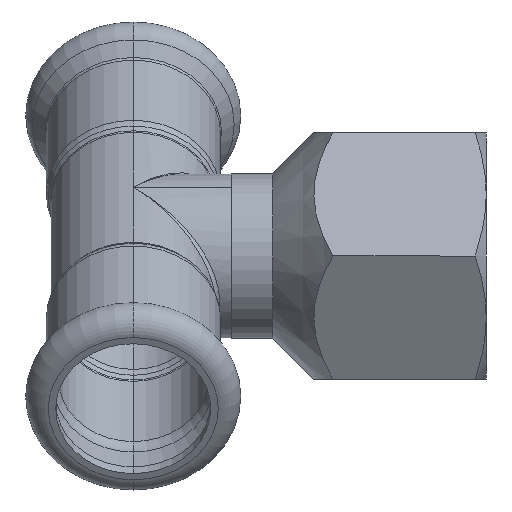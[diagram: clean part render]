
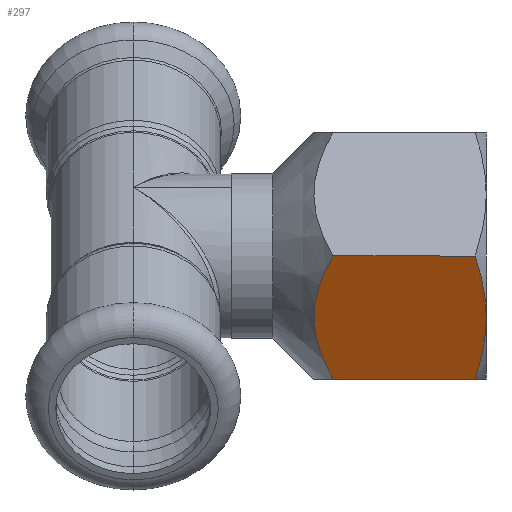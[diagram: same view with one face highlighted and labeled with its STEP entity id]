
A CAD part, left-side view. The second image highlights one B-rep face of the part: STEP entity #297.
In plain terms, the highlighted planar face has unit normal (-0.866, 0, -0.5).
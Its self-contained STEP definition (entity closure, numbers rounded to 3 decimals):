
#33 = VERTEX_POINT ( 'NONE', #2145 ) ;
#54 = ORIENTED_EDGE ( 'NONE', *, *, #2784, .T. ) ;
#62 = CARTESIAN_POINT ( 'NONE',  ( -9.369, 0.931, -13.773 ) ) ;
#104 = CARTESIAN_POINT ( 'NONE',  ( -10.082, 0.594, -12.537 ) ) ;
#197 = FACE_OUTER_BOUND ( 'NONE', #3261, .T. ) ;
#272 = DIRECTION ( 'NONE',  ( 0., -1., 0. ) ) ;
#290 = CARTESIAN_POINT ( 'NONE',  ( -12.213, 20.938, -8.847 ) ) ;
#297 = ADVANCED_FACE ( 'NONE', ( #197 ), #2793, .F. ) ;
#317 = CARTESIAN_POINT ( 'NONE',  ( -8.66, 31., -15. ) ) ;
#321 = CARTESIAN_POINT ( 'NONE',  ( -9.337, 19.356, -13.828 ) ) ;
#328 = CARTESIAN_POINT ( 'NONE',  ( -8.66, 1.34, -15. ) ) ;
#418 = CARTESIAN_POINT ( 'NONE',  ( -14.82, 0.245, -4.331 ) ) ;
#438 = CARTESIAN_POINT ( 'NONE',  ( -12.99, 0., -7.5 ) ) ;
#469 = EDGE_CURVE ( 'NONE', #2379, #1865, #521, .T. ) ;
#521 = LINE ( 'NONE', #317, #1894 ) ;
#679 = DIRECTION ( 'NONE',  ( 0.866, 0., 0.5 ) ) ;
#737 = CARTESIAN_POINT ( 'NONE',  ( -12.99, 0., -7.5 ) ) ;
#970 = CARTESIAN_POINT ( 'NONE',  ( -13.727, 0.032, -6.224 ) ) ;
#980 = EDGE_CURVE ( 'NONE', #33, #1465, #2898, .T. ) ;
#1145 = CARTESIAN_POINT ( 'NONE',  ( -8.66, 18.679, -15. ) ) ;
#1226 = CARTESIAN_POINT ( 'NONE',  ( -15.901, 0.595, -2.458 ) ) ;
#1232 = ORIENTED_EDGE ( 'NONE', *, *, #980, .F. ) ;
#1345 = CARTESIAN_POINT ( 'NONE',  ( -11.468, 20.712, -10.136 ) ) ;
#1355 = CARTESIAN_POINT ( 'NONE',  ( -11.104, 20.548, -10.768 ) ) ;
#1386 = CARTESIAN_POINT ( 'NONE',  ( -8.66, 18.679, -15. ) ) ;
#1417 = CARTESIAN_POINT ( 'NONE',  ( -11.524, 0.128, -10.04 ) ) ;
#1447 = CARTESIAN_POINT ( 'NONE',  ( -8.66, 31., -15. ) ) ;
#1465 = VERTEX_POINT ( 'NONE', #1488 ) ;
#1485 = CARTESIAN_POINT ( 'NONE',  ( -13.358, 0., -6.864 ) ) ;
#1488 = CARTESIAN_POINT ( 'NONE',  ( -17.321, 1.34, 0. ) ) ;
#1645 = CARTESIAN_POINT ( 'NONE',  ( -15.939, 19.944, -2.393 ) ) ;
#1656 = ORIENTED_EDGE ( 'NONE', *, *, #469, .T. ) ;
#1699 = CARTESIAN_POINT ( 'NONE',  ( -12.253, 0., -8.778 ) ) ;
#1742 = CARTESIAN_POINT ( 'NONE',  ( -16.614, 0.932, -1.224 ) ) ;
#1809 = EDGE_CURVE ( 'NONE', #2379, #33, #2199, .T. ) ;
#1830 = CARTESIAN_POINT ( 'NONE',  ( -17.321, 31., 0. ) ) ;
#1865 = VERTEX_POINT ( 'NONE', #3255 ) ;
#1874 = CARTESIAN_POINT ( 'NONE',  ( -12.596, 20.998, -8.182 ) ) ;
#1894 = VECTOR ( 'NONE', #272, 1000. ) ;
#2014 = CARTESIAN_POINT ( 'NONE',  ( -14.457, 0.154, -4.959 ) ) ;
#2145 = CARTESIAN_POINT ( 'NONE',  ( -17.321, 18.679, 0. ) ) ;
#2147 = CARTESIAN_POINT ( 'NONE',  ( -14.474, 20.774, -4.931 ) ) ;
#2152 = B_SPLINE_CURVE_WITH_KNOTS ( 'NONE', 3,
 ( #438, #1485, #970, #2014, #418, #1226, #1742, #2293 ),
 .UNSPECIFIED., .F., .F.,
 ( 4, 2, 2, 4 ),
 ( 0.009, 0.011, 0.013, 0.017 ),
 .UNSPECIFIED. ) ;
#2183 = CARTESIAN_POINT ( 'NONE',  ( -16.64, 19.36, -1.179 ) ) ;
#2199 = B_SPLINE_CURVE_WITH_KNOTS ( 'NONE', 3,
 ( #1386, #321, #2448, #1355, #1345, #290, #1874, #3246, #2147, #1645, #2183, #2725 ),
 .UNSPECIFIED., .F., .F.,
 ( 4, 2, 2, 2, 2, 4 ),
 ( 0., 0.004, 0.007, 0.009, 0.013, 0.018 ),
 .UNSPECIFIED. ) ;
#2235 = VERTEX_POINT ( 'NONE', #737 ) ;
#2293 = CARTESIAN_POINT ( 'NONE',  ( -17.321, 1.34, 0. ) ) ;
#2337 = ORIENTED_EDGE ( 'NONE', *, *, #1809, .F. ) ;
#2379 = VERTEX_POINT ( 'NONE', #1145 ) ;
#2447 = EDGE_CURVE ( 'NONE', #2235, #1465, #2152, .T. ) ;
#2448 = CARTESIAN_POINT ( 'NONE',  ( -10.029, 19.931, -12.63 ) ) ;
#2551 = DIRECTION ( 'NONE',  ( 0.5, 0., -0.866 ) ) ;
#2681 = ORIENTED_EDGE ( 'NONE', *, *, #2447, .T. ) ;
#2725 = CARTESIAN_POINT ( 'NONE',  ( -17.321, 18.679, 0. ) ) ;
#2784 = EDGE_CURVE ( 'NONE', #1865, #2235, #3082, .T. ) ;
#2793 = PLANE ( 'NONE',  #3161 ) ;
#2898 = LINE ( 'NONE', #1830, #3277 ) ;
#3082 = B_SPLINE_CURVE_WITH_KNOTS ( 'NONE', 3,
 ( #328, #62, #104, #1417, #1699, #3354 ),
 .UNSPECIFIED., .F., .F.,
 ( 4, 2, 4 ),
 ( 0., 0.004, 0.009 ),
 .UNSPECIFIED. ) ;
#3161 = AXIS2_PLACEMENT_3D ( 'NONE', #1447, #679, #2551 ) ;
#3217 = DIRECTION ( 'NONE',  ( 0., -1., 0. ) ) ;
#3246 = CARTESIAN_POINT ( 'NONE',  ( -13.73, 21.003, -6.218 ) ) ;
#3255 = CARTESIAN_POINT ( 'NONE',  ( -8.66, 1.34, -15. ) ) ;
#3261 = EDGE_LOOP ( 'NONE', ( #1656, #54, #2681, #1232, #2337 ) ) ;
#3277 = VECTOR ( 'NONE', #3217, 1000. ) ;
#3354 = CARTESIAN_POINT ( 'NONE',  ( -12.99, 0., -7.5 ) ) ;
